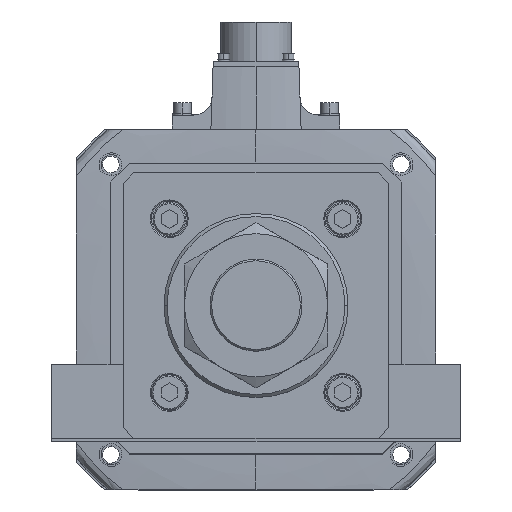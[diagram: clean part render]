
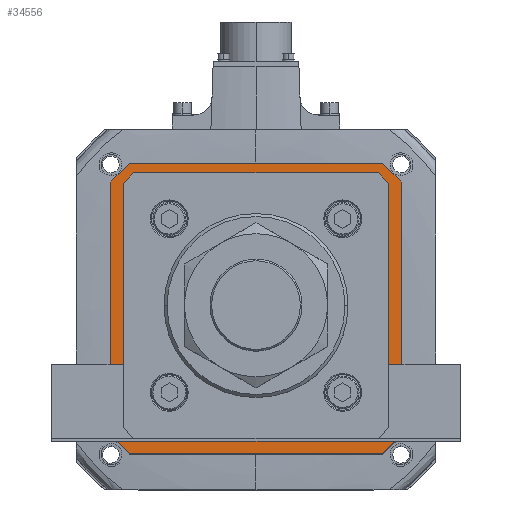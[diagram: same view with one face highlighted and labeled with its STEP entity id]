
A CAD part, top view. The second image highlights one B-rep face of the part: STEP entity #34556.
In plain terms, the highlighted planar face has unit normal (0, 0, 1).
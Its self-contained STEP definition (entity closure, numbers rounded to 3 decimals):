
#589 = VECTOR ( 'NONE', #43986, 1000. ) ;
#697 = LINE ( 'NONE', #37416, #20752 ) ;
#857 = CARTESIAN_POINT ( 'NONE',  ( 71., 62., -142. ) ) ;
#1868 = CARTESIAN_POINT ( 'NONE',  ( -63., 0., -142. ) ) ;
#2421 = LINE ( 'NONE', #52834, #15154 ) ;
#2650 = LINE ( 'NONE', #1868, #17387 ) ;
#2810 = LINE ( 'NONE', #29553, #30961 ) ;
#3478 = LINE ( 'NONE', #24788, #48901 ) ;
#3860 = EDGE_CURVE ( 'NONE', #9654, #23561, #697, .T. ) ;
#4166 = VECTOR ( 'NONE', #31249, 1000. ) ;
#5834 = CARTESIAN_POINT ( 'NONE',  ( -71., -62., -142. ) ) ;
#6189 = DIRECTION ( 'NONE',  ( 0., 1., 0. ) ) ;
#6689 = ORIENTED_EDGE ( 'NONE', *, *, #37091, .F. ) ;
#6878 = DIRECTION ( 'NONE',  ( 1., 0., 0. ) ) ;
#7161 = DIRECTION ( 'NONE',  ( 0.707, 0.707, 0. ) ) ;
#7410 = CARTESIAN_POINT ( 'NONE',  ( 0., 0., -142. ) ) ;
#8101 = CARTESIAN_POINT ( 'NONE',  ( 62., -71., -142. ) ) ;
#8132 = DIRECTION ( 'NONE',  ( -0.707, 0.707, 0. ) ) ;
#8192 = VECTOR ( 'NONE', #42033, 1000. ) ;
#8787 = CARTESIAN_POINT ( 'NONE',  ( -62., -71., -142. ) ) ;
#9654 = VERTEX_POINT ( 'NONE', #5834 ) ;
#9878 = CARTESIAN_POINT ( 'NONE',  ( 63., 58.793, -142. ) ) ;
#9965 = DIRECTION ( 'NONE',  ( 0., -1., 0. ) ) ;
#10059 = ORIENTED_EDGE ( 'NONE', *, *, #29613, .T. ) ;
#10086 = VERTEX_POINT ( 'NONE', #8787 ) ;
#10546 = VERTEX_POINT ( 'NONE', #40130 ) ;
#11421 = CARTESIAN_POINT ( 'NONE',  ( 63., 0., -142. ) ) ;
#11540 = FACE_BOUND ( 'NONE', #55051, .T. ) ;
#11673 = CARTESIAN_POINT ( 'NONE',  ( -62., 71., -142. ) ) ;
#12407 = CARTESIAN_POINT ( 'NONE',  ( 63., -58.793, -142. ) ) ;
#12696 = VERTEX_POINT ( 'NONE', #54259 ) ;
#12777 = ORIENTED_EDGE ( 'NONE', *, *, #18917, .F. ) ;
#12861 = LINE ( 'NONE', #27481, #30287 ) ;
#13154 = EDGE_CURVE ( 'NONE', #28388, #41149, #20931, .T. ) ;
#13281 = LINE ( 'NONE', #23424, #589 ) ;
#14018 = CARTESIAN_POINT ( 'NONE',  ( 0., -63., -142. ) ) ;
#15154 = VECTOR ( 'NONE', #9965, 1000. ) ;
#15303 = LINE ( 'NONE', #53249, #25305 ) ;
#16188 = VERTEX_POINT ( 'NONE', #51112 ) ;
#16292 = EDGE_LOOP ( 'NONE', ( #40730, #18122, #24762, #6689, #19337, #32069, #12777, #36584 ) ) ;
#16433 = LINE ( 'NONE', #42476, #17031 ) ;
#16524 = DIRECTION ( 'NONE',  ( -1., 0., 0. ) ) ;
#17031 = VECTOR ( 'NONE', #8132, 1000. ) ;
#17387 = VECTOR ( 'NONE', #6189, 1000. ) ;
#18122 = ORIENTED_EDGE ( 'NONE', *, *, #28198, .F. ) ;
#18917 = EDGE_CURVE ( 'NONE', #50694, #16188, #2421, .T. ) ;
#19337 = ORIENTED_EDGE ( 'NONE', *, *, #50432, .F. ) ;
#19348 = ORIENTED_EDGE ( 'NONE', *, *, #45262, .T. ) ;
#19484 = LINE ( 'NONE', #40027, #52116 ) ;
#19582 = LINE ( 'NONE', #50730, #8192 ) ;
#20752 = VECTOR ( 'NONE', #37605, 1000. ) ;
#20931 = LINE ( 'NONE', #11421, #33693 ) ;
#22504 = VERTEX_POINT ( 'NONE', #25297 ) ;
#22797 = ORIENTED_EDGE ( 'NONE', *, *, #52684, .T. ) ;
#22824 = CARTESIAN_POINT ( 'NONE',  ( 71., 62., -142. ) ) ;
#23424 = CARTESIAN_POINT ( 'NONE',  ( 60.896, 60.896, -142. ) ) ;
#23561 = VERTEX_POINT ( 'NONE', #42641 ) ;
#23667 = VERTEX_POINT ( 'NONE', #42092 ) ;
#24762 = ORIENTED_EDGE ( 'NONE', *, *, #3860, .F. ) ;
#24788 = CARTESIAN_POINT ( 'NONE',  ( 62., 71., -142. ) ) ;
#25297 = CARTESIAN_POINT ( 'NONE',  ( -63., -58.793, -142. ) ) ;
#25305 = VECTOR ( 'NONE', #7161, 1000. ) ;
#27213 = VERTEX_POINT ( 'NONE', #46496 ) ;
#27481 = CARTESIAN_POINT ( 'NONE',  ( 60.896, -60.896, -142. ) ) ;
#27665 = DIRECTION ( 'NONE',  ( -0.707, -0.707, 0. ) ) ;
#27752 = CARTESIAN_POINT ( 'NONE',  ( -58.793, 63., -142. ) ) ;
#28198 = EDGE_CURVE ( 'NONE', #23561, #34969, #2810, .T. ) ;
#28388 = VERTEX_POINT ( 'NONE', #9878 ) ;
#28395 = DIRECTION ( 'NONE',  ( 0., 0., 1. ) ) ;
#28862 = EDGE_CURVE ( 'NONE', #38875, #50694, #44878, .T. ) ;
#29322 = CARTESIAN_POINT ( 'NONE',  ( -58.793, -63., -142. ) ) ;
#29553 = CARTESIAN_POINT ( 'NONE',  ( -62., 71., -142. ) ) ;
#29613 = EDGE_CURVE ( 'NONE', #22504, #12696, #2650, .T. ) ;
#29730 = DIRECTION ( 'NONE',  ( 0.707, 0.707, 0. ) ) ;
#30066 = CARTESIAN_POINT ( 'NONE',  ( 62., 71., -142. ) ) ;
#30287 = VECTOR ( 'NONE', #27665, 1000. ) ;
#30961 = VECTOR ( 'NONE', #29730, 1000. ) ;
#31249 = DIRECTION ( 'NONE',  ( -1., 0., 0. ) ) ;
#31797 = CARTESIAN_POINT ( 'NONE',  ( -62., -71., -142. ) ) ;
#32069 = ORIENTED_EDGE ( 'NONE', *, *, #41720, .F. ) ;
#32536 = ORIENTED_EDGE ( 'NONE', *, *, #55270, .T. ) ;
#33351 = VECTOR ( 'NONE', #16524, 1000. ) ;
#33613 = DIRECTION ( 'NONE',  ( 1., 0., 0. ) ) ;
#33693 = VECTOR ( 'NONE', #54319, 1000. ) ;
#34556 = ADVANCED_FACE ( 'NONE', ( #11540, #45616 ), #53697, .T. ) ;
#34653 = EDGE_CURVE ( 'NONE', #34969, #38875, #3478, .T. ) ;
#34751 = VERTEX_POINT ( 'NONE', #29322 ) ;
#34931 = ORIENTED_EDGE ( 'NONE', *, *, #13154, .T. ) ;
#34969 = VERTEX_POINT ( 'NONE', #11673 ) ;
#35389 = DIRECTION ( 'NONE',  ( 1., 0., 0. ) ) ;
#36584 = ORIENTED_EDGE ( 'NONE', *, *, #28862, .F. ) ;
#37091 = EDGE_CURVE ( 'NONE', #10086, #9654, #38175, .T. ) ;
#37416 = CARTESIAN_POINT ( 'NONE',  ( -71., 62., -142. ) ) ;
#37605 = DIRECTION ( 'NONE',  ( 0., 1., 0. ) ) ;
#38175 = LINE ( 'NONE', #31797, #45480 ) ;
#38875 = VERTEX_POINT ( 'NONE', #30066 ) ;
#39285 = ORIENTED_EDGE ( 'NONE', *, *, #45042, .T. ) ;
#40027 = CARTESIAN_POINT ( 'NONE',  ( 0., 63., -142. ) ) ;
#40130 = CARTESIAN_POINT ( 'NONE',  ( 58.793, -63., -142. ) ) ;
#40730 = ORIENTED_EDGE ( 'NONE', *, *, #34653, .F. ) ;
#41149 = VERTEX_POINT ( 'NONE', #12407 ) ;
#41526 = VECTOR ( 'NONE', #51752, 1000. ) ;
#41720 = EDGE_CURVE ( 'NONE', #16188, #23667, #19582, .T. ) ;
#42033 = DIRECTION ( 'NONE',  ( -0.707, -0.707, 0. ) ) ;
#42092 = CARTESIAN_POINT ( 'NONE',  ( 62., -71., -142. ) ) ;
#42476 = CARTESIAN_POINT ( 'NONE',  ( -60.896, -60.896, -142. ) ) ;
#42641 = CARTESIAN_POINT ( 'NONE',  ( -71., 62., -142. ) ) ;
#43601 = EDGE_CURVE ( 'NONE', #53007, #27213, #19484, .T. ) ;
#43986 = DIRECTION ( 'NONE',  ( 0.707, -0.707, 0. ) ) ;
#44878 = LINE ( 'NONE', #857, #41526 ) ;
#45042 = EDGE_CURVE ( 'NONE', #27213, #28388, #13281, .T. ) ;
#45262 = EDGE_CURVE ( 'NONE', #12696, #53007, #15303, .T. ) ;
#45480 = VECTOR ( 'NONE', #48853, 1000. ) ;
#45616 = FACE_OUTER_BOUND ( 'NONE', #16292, .T. ) ;
#46496 = CARTESIAN_POINT ( 'NONE',  ( 58.793, 63., -142. ) ) ;
#48258 = LINE ( 'NONE', #14018, #4166 ) ;
#48510 = ORIENTED_EDGE ( 'NONE', *, *, #55258, .T. ) ;
#48853 = DIRECTION ( 'NONE',  ( -0.707, 0.707, 0. ) ) ;
#48901 = VECTOR ( 'NONE', #33613, 1000. ) ;
#49964 = LINE ( 'NONE', #8101, #33351 ) ;
#50432 = EDGE_CURVE ( 'NONE', #23667, #10086, #49964, .T. ) ;
#50694 = VERTEX_POINT ( 'NONE', #22824 ) ;
#50730 = CARTESIAN_POINT ( 'NONE',  ( 71., -62., -142. ) ) ;
#51112 = CARTESIAN_POINT ( 'NONE',  ( 71., -62., -142. ) ) ;
#51752 = DIRECTION ( 'NONE',  ( 0.707, -0.707, 0. ) ) ;
#52116 = VECTOR ( 'NONE', #35389, 1000. ) ;
#52684 = EDGE_CURVE ( 'NONE', #34751, #22504, #16433, .T. ) ;
#52834 = CARTESIAN_POINT ( 'NONE',  ( 71., 62., -142. ) ) ;
#53007 = VERTEX_POINT ( 'NONE', #27752 ) ;
#53249 = CARTESIAN_POINT ( 'NONE',  ( -60.896, 60.896, -142. ) ) ;
#53697 = PLANE ( 'NONE',  #54048 ) ;
#54048 = AXIS2_PLACEMENT_3D ( 'NONE', #7410, #28395, #6878 ) ;
#54259 = CARTESIAN_POINT ( 'NONE',  ( -63., 58.793, -142. ) ) ;
#54319 = DIRECTION ( 'NONE',  ( 0., -1., 0. ) ) ;
#54332 = ORIENTED_EDGE ( 'NONE', *, *, #43601, .T. ) ;
#55051 = EDGE_LOOP ( 'NONE', ( #34931, #32536, #48510, #22797, #10059, #19348, #54332, #39285 ) ) ;
#55258 = EDGE_CURVE ( 'NONE', #10546, #34751, #48258, .T. ) ;
#55270 = EDGE_CURVE ( 'NONE', #41149, #10546, #12861, .T. ) ;
